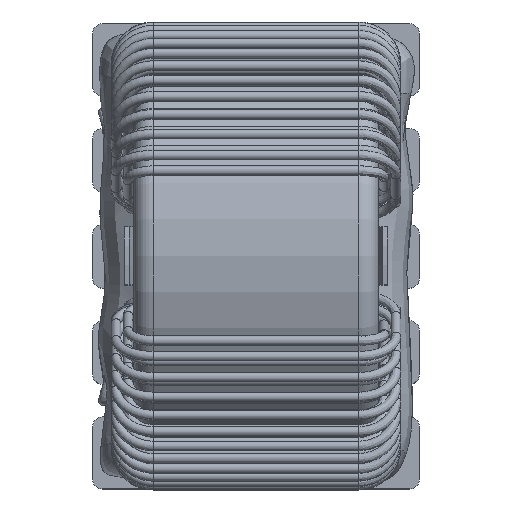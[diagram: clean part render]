
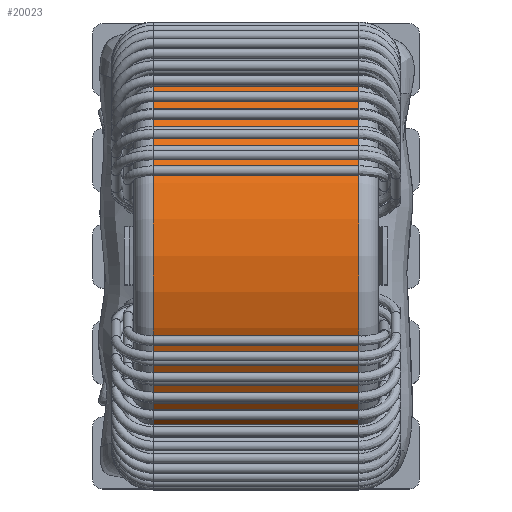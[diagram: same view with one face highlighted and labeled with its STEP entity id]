
A CAD part, top view. The second image highlights one B-rep face of the part: STEP entity #20023.
In plain terms, the highlighted cylindrical face has radius 11 mm (diameter 22 mm), a full revolution.
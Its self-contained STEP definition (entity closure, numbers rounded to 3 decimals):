
#509=CYLINDRICAL_SURFACE('',#21846,11.);
#4403=ORIENTED_EDGE('',*,*,#5786,.F.);
#4404=ORIENTED_EDGE('',*,*,#5783,.T.);
#5783=EDGE_CURVE('',#6993,#6993,#7971,.T.);
#5786=EDGE_CURVE('',#6996,#6996,#7974,.T.);
#6993=VERTEX_POINT('',#72673);
#6996=VERTEX_POINT('',#72680);
#7971=CIRCLE('',#21833,11.);
#7974=CIRCLE('',#21837,11.);
#9911=EDGE_LOOP('',(#4403));
#9912=EDGE_LOOP('',(#4404));
#11847=FACE_BOUND('',#9911,.T.);
#11848=FACE_BOUND('',#9912,.T.);
#20023=ADVANCED_FACE('',(#11847,#11848),#509,.T.);
#21833=AXIS2_PLACEMENT_3D('',#72672,#25684,#25685);
#21837=AXIS2_PLACEMENT_3D('',#72679,#25692,#25693);
#21846=AXIS2_PLACEMENT_3D('',#72693,#25710,#25711);
#25684=DIRECTION('',(0.,1.,0.));
#25685=DIRECTION('',(0.,0.,1.));
#25692=DIRECTION('',(0.,1.,0.));
#25693=DIRECTION('',(0.,0.,1.));
#25710=DIRECTION('',(0.,1.,0.));
#25711=DIRECTION('',(0.,0.,1.));
#72672=CARTESIAN_POINT('',(0.,-5.35,15.1));
#72673=CARTESIAN_POINT('',(0.,-5.35,26.1));
#72679=CARTESIAN_POINT('',(0.,5.35,15.1));
#72680=CARTESIAN_POINT('',(0.,5.35,26.1));
#72693=CARTESIAN_POINT('',(0.,-6.35,15.1));
